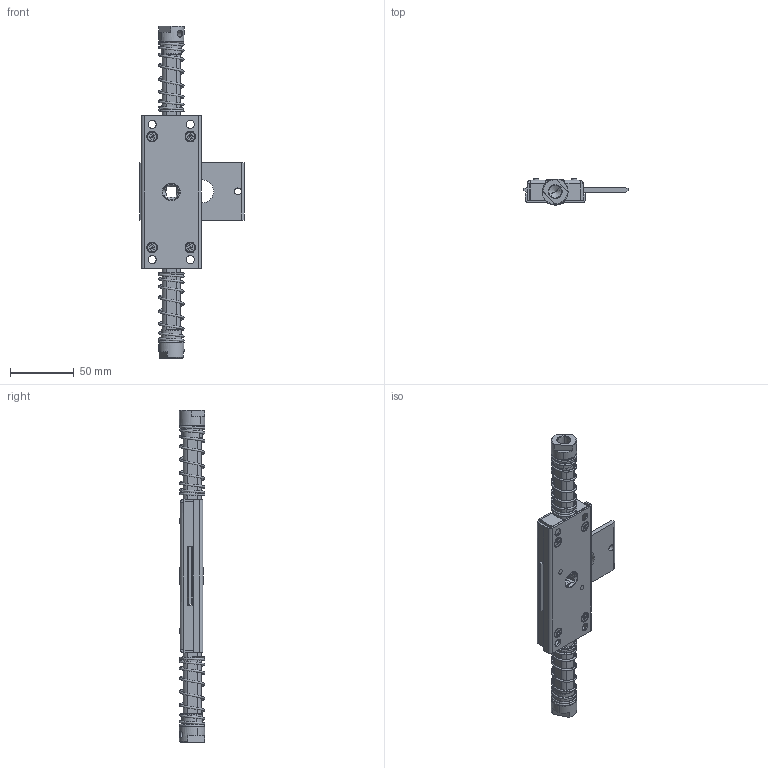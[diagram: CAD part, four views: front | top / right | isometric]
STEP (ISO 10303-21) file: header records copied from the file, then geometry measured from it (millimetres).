
FILE_DESCRIPTION (( 'STEP AP214' ), '1' );
FILE_NAME ('1B.ZW10.L - zamek wewnetrzny ZW lewy.STEP', '2016-09-07T09:52:52', ( '' ), ( '' ), 'SwSTEP 2.0', 'SolidWorks 2015', '' );
FILE_SCHEMA (( 'AUTOMOTIVE_DESIGN' ));
Length unit declared in the file: millimetre
Products named in the file (17): 5.SP.001_A; 1B.SAP.000.00.03_1B.SAP.000.00.03.D10; M4_M4 x 8; 1B.ZW.009_B; 1B.ZW.010_A; 1B.ZW.007_A; 1B.ZW.008_A; 1B.ZW.005_B.P; 1B.ZW.006_B; 1B.ZW.005.03_B; 1B.ZW.005.04_A; 1B.ZW.005.02_A; 1B.ZW.005.01_A; 1B.ZW.003_A; 1B.ZW.002_A; 1B.ZW.001_A; 1B.ZW10.L - zamek wewnetrzny ZW lewy
Assembly tree (25 placements, depth 3):
  1B.ZW10.L - zamek wewnetrzny ZW lewy
    1B.ZW.002_A
    1B.ZW.001_A
    1B.ZW.003_A  x4
    1B.ZW.005_B.P  x2
      1B.ZW.005.01_A
      1B.ZW.005.02_A
      1B.ZW.005.03_B
      1B.ZW.005.04_A
    1B.ZW.006_B
    1B.ZW.007_A
    1B.ZW.008_A
    1B.ZW.009_B
    1B.ZW.010_A
    1B.SAP.000.00.03_1B.SAP.000.00.03.D10  x2
    M4_M4 x 8  x4
    5.SP.001_A  x2
Bounding box: 82 x 20.2 x 260.5 mm (x, y, z)
Volume: 83850.5 mm3; surface area: 72538.6 mm2
Topology: 27 solids, 27 shells, 700 faces, 1643 edges, 1007 vertices
Faces by surface type: plane 310, cylinder 216, cone 146, bspline 16, torus 12
Entity records: 22836 total; most frequent: CARTESIAN_POINT 11580, DIRECTION 2284, ORIENTED_EDGE 2082, EDGE_CURVE 1041, AXIS2_PLACEMENT_3D 843, VERTEX_POINT 649, VECTOR 598, LINE 598
